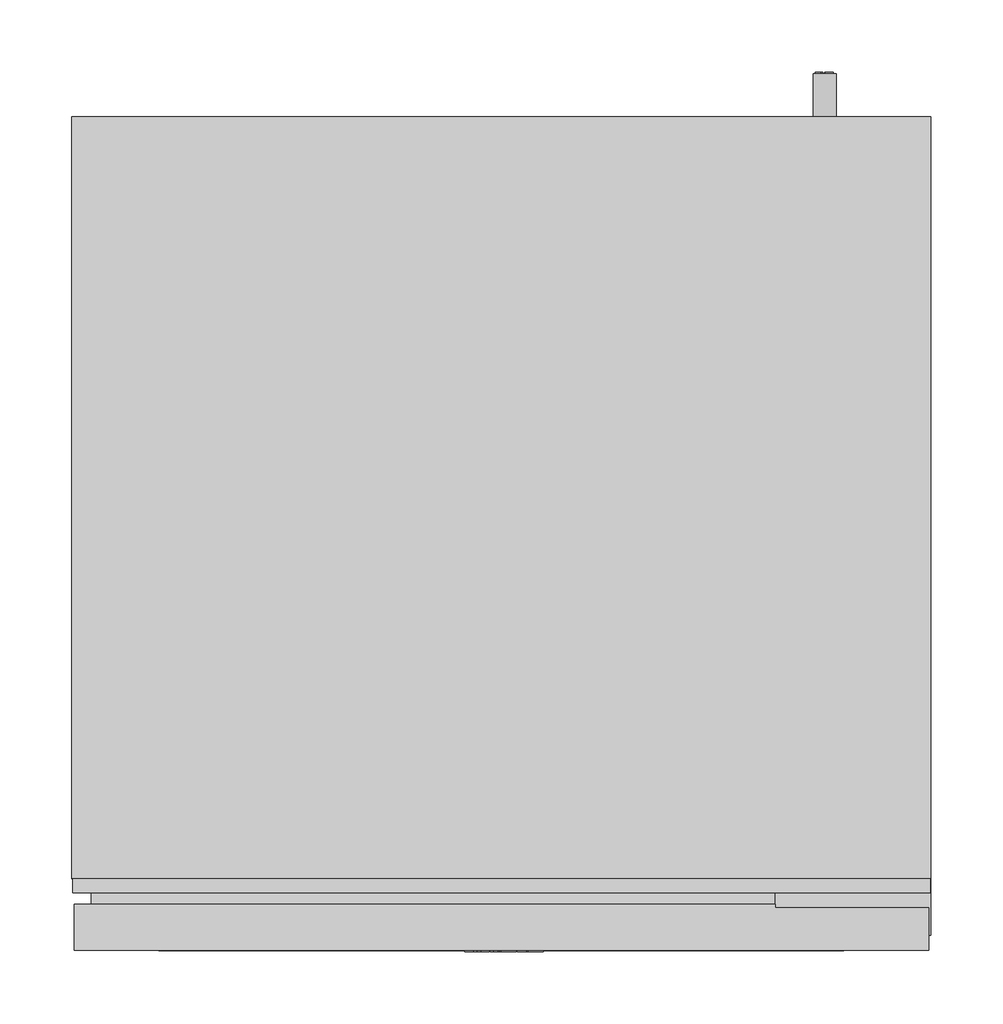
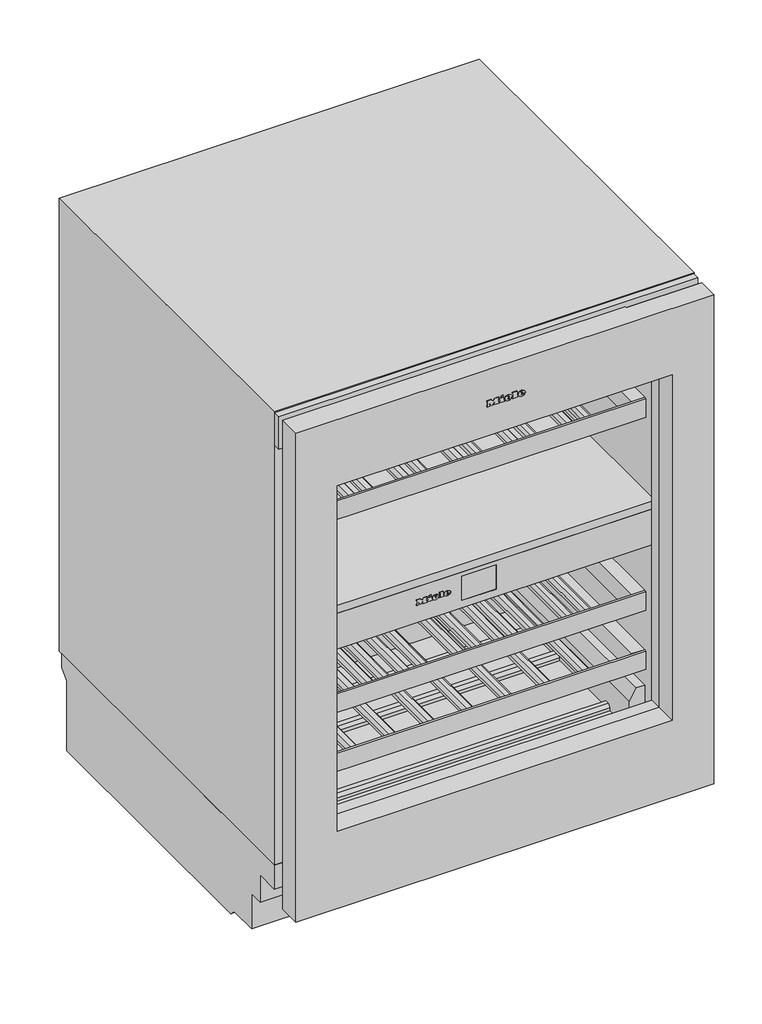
# Not in any storey: 1 proxy.
"""IFC4 building model written with IfcOpenShell, lengths in millimetres."""

from ifc_helpers import new_model, si_unit, origin, place, context, project, spatial, transform, mapped, element, save
from components import specialty_equipment_700358eb

model = new_model("IFC4")

# Units and contexts
model_context = context("Model", 3, world=origin())
ifc_project = project(units=[si_unit("LENGTHUNIT", "METRE", prefix="MILLI")], contexts=[model_context])

# Site, building
site = spatial("IfcSite", under=ifc_project)
building = spatial("IfcBuilding", under=site)

# Proxy
placement = place(None, origin())
specialty_equipment_shape = specialty_equipment_700358eb(model_context)
element("IfcBuildingElementProxy", 1, Name="12519560_EU1_KWTUS7096E_OBSW : 39709610_EU1_12519560_KWTUS7096E_OBSW", ObjectType="12519560_EU1_KWTUS7096E_OBSW : 39709610_EU1_12519560_KWTUS7096E_OBSW", at=placement, inside=building, context=model_context, shape_type="MappedRepresentation", body=[
    mapped(specialty_equipment_shape, transform((0.0, 0.0, 0.0), x_axis=(1.0, 0.0, 0.0), y_axis=(0.0, 1.0, 0.0), z_axis=(0.0, 0.0, 1.0))),
])

save(model, "model.ifc")
